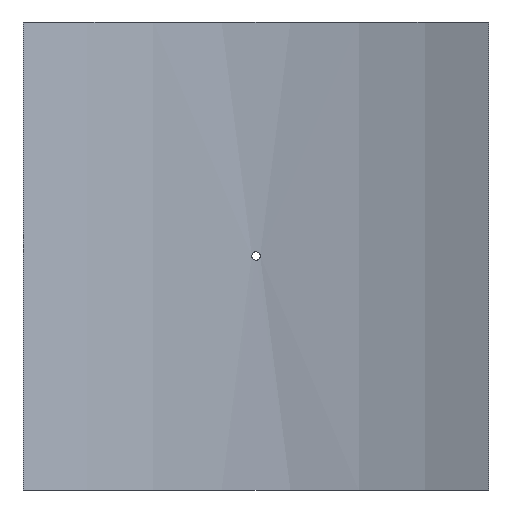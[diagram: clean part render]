
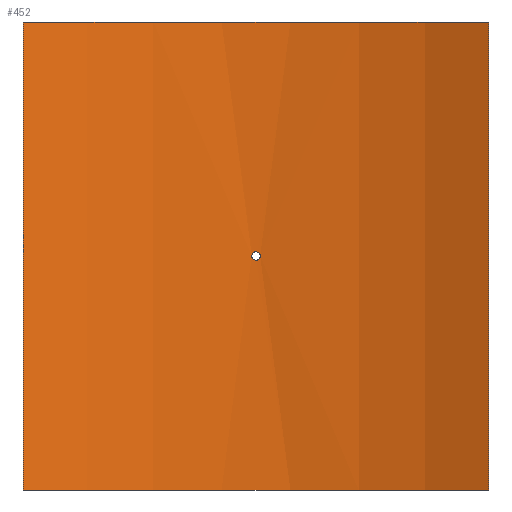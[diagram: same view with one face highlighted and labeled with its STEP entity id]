
A CAD part, front view. The second image highlights one B-rep face of the part: STEP entity #452.
In plain terms, the highlighted cylindrical face has radius 600 mm (diameter 1200 mm), a partial arc.
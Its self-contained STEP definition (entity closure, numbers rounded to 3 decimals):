
#19=B_SPLINE_CURVE_WITH_KNOTS('',3,(#788,#789,#790,#791,#792,#793,#794,
#795,#796,#797,#798,#799,#800,#801,#802,#803,#804,#805,#806,#807,#808,#809,
#810,#811,#812,#813,#814,#815,#816,#817,#818,#819,#820,#821),
 .UNSPECIFIED.,.T.,.F.,(4,2,2,2,2,2,2,2,2,2,2,2,2,2,2,2,4),(0.,0.181,
0.362,0.542,0.723,0.904,
1.085,1.266,1.446,1.627,1.808,
1.989,2.17,2.351,2.531,2.712,
2.893),.UNSPECIFIED.);
#43=LINE('',#1065,#62);
#44=LINE('',#1068,#63);
#62=VECTOR('',#661,10.);
#63=VECTOR('',#664,10.);
#76=CYLINDRICAL_SURFACE('',#530,600.);
#88=FACE_BOUND('',#167,.T.);
#127=FACE_OUTER_BOUND('',#166,.T.);
#166=EDGE_LOOP('',(#405,#406,#407,#408));
#167=EDGE_LOOP('',(#409));
#201=CIRCLE('',#529,600.);
#202=CIRCLE('',#531,600.);
#219=VERTEX_POINT('',#786);
#242=VERTEX_POINT('',#1058);
#243=VERTEX_POINT('',#1060);
#244=VERTEX_POINT('',#1064);
#245=VERTEX_POINT('',#1066);
#267=EDGE_CURVE('',#219,#219,#19,.T.);
#299=EDGE_CURVE('',#242,#243,#201,.T.);
#301=EDGE_CURVE('',#244,#242,#43,.T.);
#302=EDGE_CURVE('',#245,#244,#202,.T.);
#303=EDGE_CURVE('',#245,#243,#44,.T.);
#405=ORIENTED_EDGE('',*,*,#301,.F.);
#406=ORIENTED_EDGE('',*,*,#302,.F.);
#407=ORIENTED_EDGE('',*,*,#303,.T.);
#408=ORIENTED_EDGE('',*,*,#299,.F.);
#409=ORIENTED_EDGE('',*,*,#267,.T.);
#452=ADVANCED_FACE('',(#127,#88),#76,.F.);
#529=AXIS2_PLACEMENT_3D('',#1061,#656,#657);
#530=AXIS2_PLACEMENT_3D('',#1063,#659,#660);
#531=AXIS2_PLACEMENT_3D('',#1067,#662,#663);
#656=DIRECTION('center_axis',(0.,0.,1.));
#657=DIRECTION('ref_axis',(0.439,0.898,0.));
#659=DIRECTION('center_axis',(0.,0.,1.));
#660=DIRECTION('ref_axis',(0.439,0.898,0.));
#661=DIRECTION('',(0.,0.,-1.));
#662=DIRECTION('center_axis',(0.,0.,-1.));
#663=DIRECTION('ref_axis',(0.439,0.898,0.));
#664=DIRECTION('',(0.,0.,-1.));
#786=CARTESIAN_POINT('',(4.8,599.981,0.));
#788=CARTESIAN_POINT('Ctrl Pts',(4.8,599.981,0.));
#789=CARTESIAN_POINT('Ctrl Pts',(4.8,599.981,-0.603));
#790=CARTESIAN_POINT('Ctrl Pts',(4.68,599.982,-1.246));
#791=CARTESIAN_POINT('Ctrl Pts',(4.19,599.985,-2.428));
#792=CARTESIAN_POINT('Ctrl Pts',(3.82,599.988,-2.968));
#793=CARTESIAN_POINT('Ctrl Pts',(2.968,599.993,-3.82));
#794=CARTESIAN_POINT('Ctrl Pts',(2.428,599.995,-4.19));
#795=CARTESIAN_POINT('Ctrl Pts',(1.246,599.999,-4.68));
#796=CARTESIAN_POINT('Ctrl Pts',(0.603,600.,-4.8));
#797=CARTESIAN_POINT('Ctrl Pts',(-0.603,600.,-4.8));
#798=CARTESIAN_POINT('Ctrl Pts',(-1.246,599.999,-4.68));
#799=CARTESIAN_POINT('Ctrl Pts',(-2.428,599.995,-4.19));
#800=CARTESIAN_POINT('Ctrl Pts',(-2.968,599.993,-3.82));
#801=CARTESIAN_POINT('Ctrl Pts',(-3.82,599.988,-2.968));
#802=CARTESIAN_POINT('Ctrl Pts',(-4.19,599.985,-2.428));
#803=CARTESIAN_POINT('Ctrl Pts',(-4.68,599.982,-1.246));
#804=CARTESIAN_POINT('Ctrl Pts',(-4.8,599.981,-0.603));
#805=CARTESIAN_POINT('Ctrl Pts',(-4.8,599.981,0.603));
#806=CARTESIAN_POINT('Ctrl Pts',(-4.68,599.982,1.246));
#807=CARTESIAN_POINT('Ctrl Pts',(-4.19,599.985,2.428));
#808=CARTESIAN_POINT('Ctrl Pts',(-3.82,599.988,2.968));
#809=CARTESIAN_POINT('Ctrl Pts',(-2.968,599.993,3.82));
#810=CARTESIAN_POINT('Ctrl Pts',(-2.428,599.995,4.19));
#811=CARTESIAN_POINT('Ctrl Pts',(-1.246,599.999,4.68));
#812=CARTESIAN_POINT('Ctrl Pts',(-0.603,600.,4.8));
#813=CARTESIAN_POINT('Ctrl Pts',(0.603,600.,4.8));
#814=CARTESIAN_POINT('Ctrl Pts',(1.246,599.999,4.68));
#815=CARTESIAN_POINT('Ctrl Pts',(2.428,599.995,4.19));
#816=CARTESIAN_POINT('Ctrl Pts',(2.968,599.993,3.82));
#817=CARTESIAN_POINT('Ctrl Pts',(3.82,599.988,2.968));
#818=CARTESIAN_POINT('Ctrl Pts',(4.19,599.985,2.428));
#819=CARTESIAN_POINT('Ctrl Pts',(4.68,599.982,1.246));
#820=CARTESIAN_POINT('Ctrl Pts',(4.8,599.981,0.603));
#821=CARTESIAN_POINT('Ctrl Pts',(4.8,599.981,0.));
#1058=CARTESIAN_POINT('',(263.5,539.043,-265.));
#1060=CARTESIAN_POINT('',(-263.5,539.043,-265.));
#1061=CARTESIAN_POINT('Origin',(0.,0.,
-265.));
#1063=CARTESIAN_POINT('Origin',(0.,0.,
0.));
#1064=CARTESIAN_POINT('',(263.5,539.043,265.));
#1065=CARTESIAN_POINT('',(263.5,539.043,0.));
#1066=CARTESIAN_POINT('',(-263.5,539.043,265.));
#1067=CARTESIAN_POINT('Origin',(0.,0.,
265.));
#1068=CARTESIAN_POINT('',(-263.5,539.043,0.));
